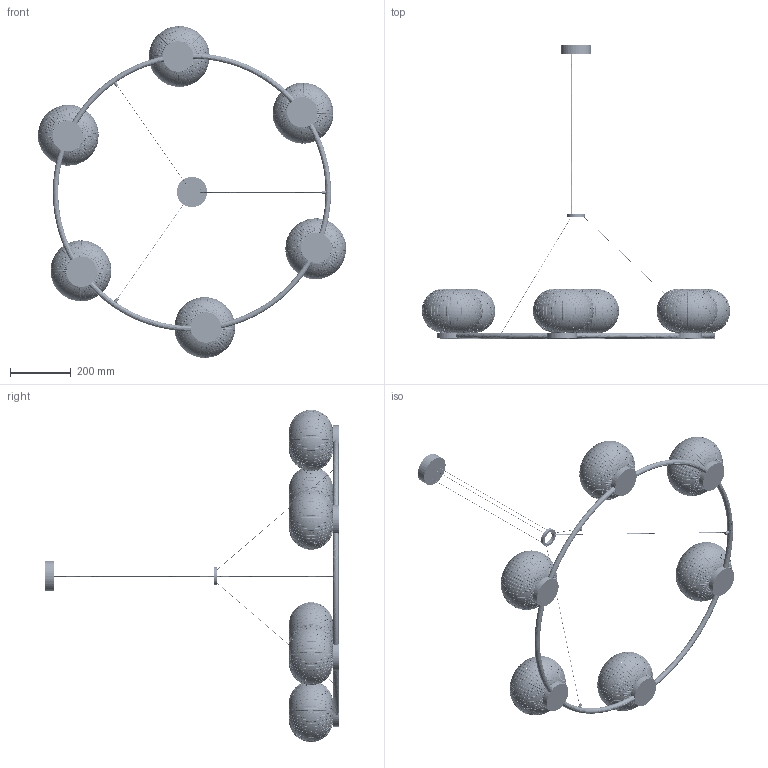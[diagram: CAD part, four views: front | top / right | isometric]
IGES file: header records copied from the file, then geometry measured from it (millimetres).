
Start section: SolidWorks IGES file using analytic representation for surfaces
Global section: file name: C:\Users\adrian\Desktop\Nueva Colección Enero 2026\3D\drive-download-20251230T145340Z-1-001\IRZO\C1353-6.STEP.IGS; native system: SolidWorks 2023; preprocessor: SolidWorks 2023; author: adrian; date: 251230.162836; units: millimetre
Bounding box: 1017.9 x 967.78 x 1095.8 mm (x, y, z)
Surface area: 1314229.5 mm2 (no closed solid volume)
Topology: 0 solids, 0 shells, 1613 faces, 13660 edges, 13630 vertices
Faces by surface type: bspline 1575, revolution 38
